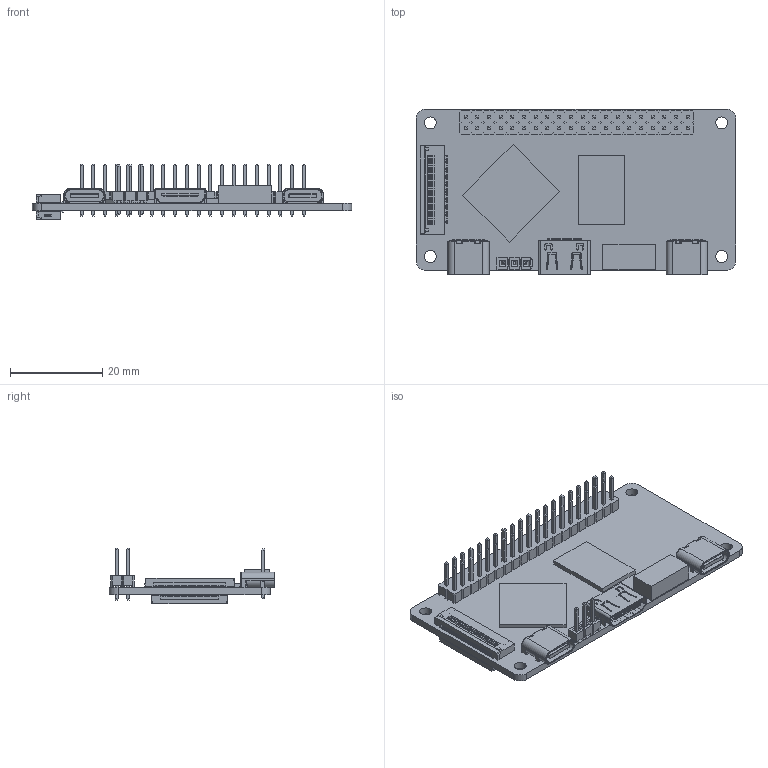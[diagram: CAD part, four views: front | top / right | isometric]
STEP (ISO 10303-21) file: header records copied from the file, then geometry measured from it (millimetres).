
FILE_DESCRIPTION (( 'STEP AP214' ), '1' );
FILE_NAME ('LubanCat zero W PCB.STEP', '2025-03-29T03:23:10', ( 'admin' ), ( '' ), 'SwSTEP 2.0', 'SolidWorks 2021', '' );
FILE_SCHEMA (( 'AUTOMOTIVE_DESIGN' ));
Length unit declared in the file: millimetre
Products named in the file (9): TSW-109-07-G-S 3pin; x05a20l30t; TF縐釱; User Library-USB-TYPE-C20; 000a71-05h4-111n1; User Library-HEADER 20X2; x05a20l24t; LubanCat zero W PCB; PCB
Assembly tree (9 placements, depth 2):
  LubanCat zero W PCB
    PCB
    User Library-HEADER 20X2
    User Library-USB-TYPE-C20  x2
    000a71-05h4-111n1
    TSW-109-07-G-S 3pin
    x05a20l24t
    x05a20l30t
    TF縐釱
Bounding box: 69.3 x 36 x 12.1 mm (x, y, z)
Volume: 5849.4 mm3; surface area: 10195.4 mm2
Topology: 12 solids, 12 shells, 3750 faces, 10467 edges, 6686 vertices
Faces by surface type: plane 3159, cylinder 523, bspline 58, torus 10
Entity records: 127973 total; most frequent: CARTESIAN_POINT 20932, ORIENTED_EDGE 19626, DIRECTION 17563, EDGE_CURVE 9813, LINE 8735, VECTOR 8735, VERTEX_POINT 6286, AXIS2_PLACEMENT_3D 4414
